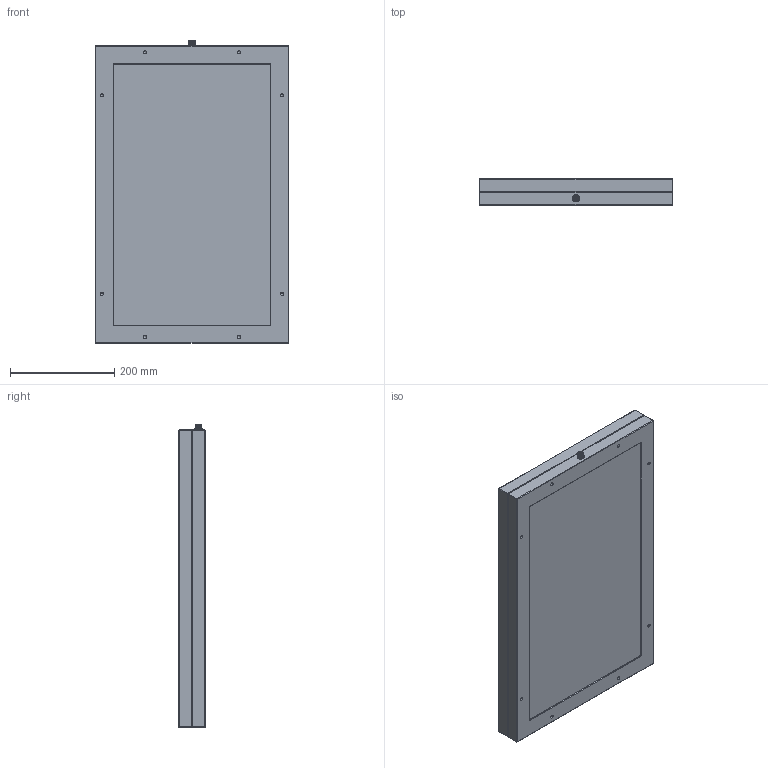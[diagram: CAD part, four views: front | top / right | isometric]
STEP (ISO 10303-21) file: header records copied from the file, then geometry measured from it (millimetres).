
FILE_DESCRIPTION (( 'STEP AP214' ), '1' );
FILE_NAME ('BL3050.STEP', '2015-08-21T12:57:29', ( '' ), ( '' ), 'SwSTEP 2.0', 'SolidWorks 2010', '' );
FILE_SCHEMA (( 'AUTOMOTIVE_DESIGN' ));
Length unit declared in the file: millimetre
Products named in the file (6): cadre support 270x270; Support 200x200; Diffusant 200x200; cadre 270x270; SW3DPS-FISCHER_DBP_103_Z053-130-DEFAULT_Default; BL3050
Assembly tree (5 placements, depth 2):
  BL3050
    cadre 270x270
    SW3DPS-FISCHER_DBP_103_Z053-130-DEFAULT_Default
    Diffusant 200x200
    Support 200x200
    cadre support 270x270
Bounding box: 370 x 50 x 580 mm (x, y, z)
Volume: 4233692.8 mm3; surface area: 1030090.7 mm2
Topology: 4 solids, 7 shells, 443 faces, 1109 edges, 677 vertices
Faces by surface type: cylinder 206, plane 87, cone 68, bspline 50, torus 16, sphere 16
Entity records: 20364 total; most frequent: CARTESIAN_POINT 8276, ORIENTED_EDGE 2124, DIRECTION 1819, EDGE_CURVE 1065, AXIS2_PLACEMENT_3D 718, VERTEX_POINT 677, EDGE_LOOP 496, FACE_OUTER_BOUND 441
